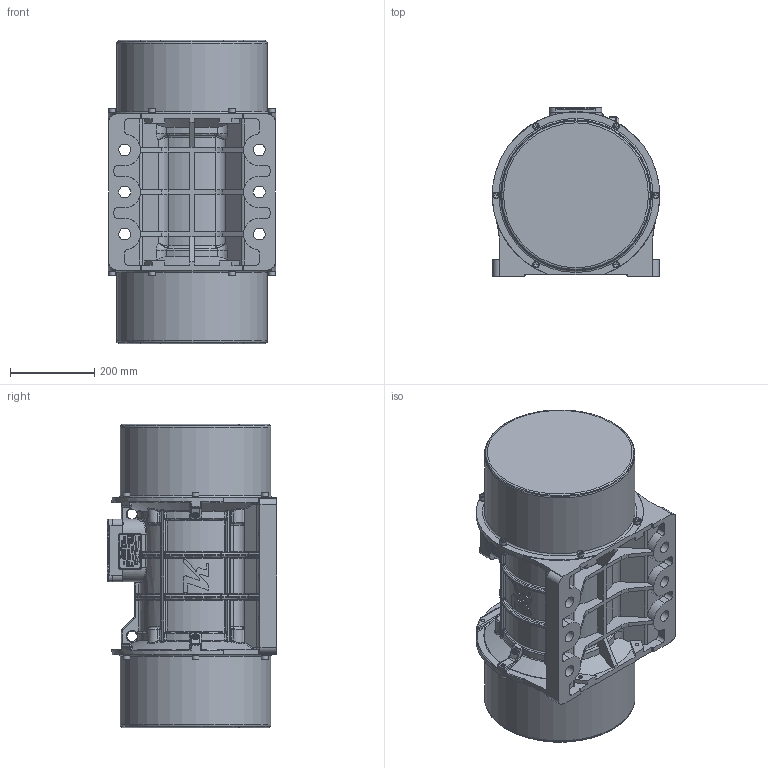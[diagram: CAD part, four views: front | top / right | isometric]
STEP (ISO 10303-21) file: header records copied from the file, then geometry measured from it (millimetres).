
FILE_DESCRIPTION(/* description */ (''),/* implementation_level */ '2;1');
FILE_NAME(/* name */ '9 NO B TAS.stp',/* time_stamp */ '2026-09-04T11:37:42+03:00',/* author */ ('PC'),/* organization */ (''),/* preprocessor_version */ 'ST-DEVELOPER v20.1',/* originating_system */ 'Autodesk Inventor 2026',/* authorisation */ '');
FILE_SCHEMA (('AUTOMOTIVE_DESIGN { 1 0 10303 214 3 1 1 }'));
Products named in the file (1): 9 NO B TAS
Bounding box: 397.94 x 403 x 721 mm (x, y, z)
Volume: 63708535.6 mm3; surface area: 1533971.9 mm2
Topology: 1 solids, 24 shells, 4567 faces, 11838 edges, 7482 vertices
Faces by surface type: plane 2127, bspline 1291, cylinder 615, torus 311, cone 125, sphere 98
Full cylindrical faces by diameter (mm): 4 x4, 6.647 x2, 6.917 x4, 8 x2, 8.376 x12, 8.5 x2, 10 x12, 10.5 x12, 11 x12, 13 x4, 16 x16, 18.5 x1, 18.6 x1, 21.3 x1, 22.5 x1, 24 x2, 28 x7, 32.2 x1, 64 x6, 358.5 x2
Entity records: 185382 total; most frequent: CARTESIAN_POINT 80155, ORIENTED_EDGE 23346, DIRECTION 17815, EDGE_CURVE 11673, VERTEX_POINT 7482, LINE 6579, VECTOR 6579, AXIS2_PLACEMENT_3D 5618
